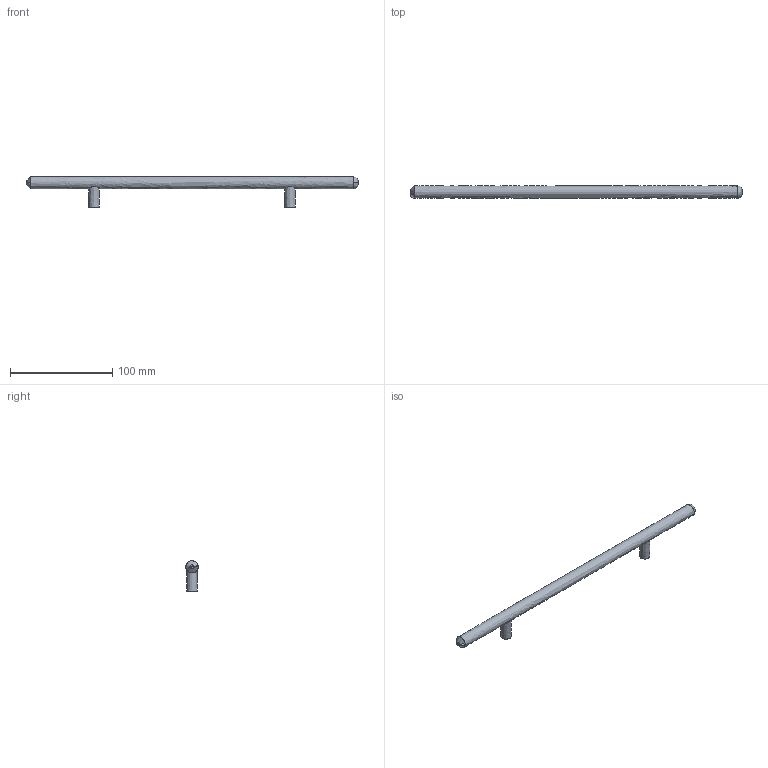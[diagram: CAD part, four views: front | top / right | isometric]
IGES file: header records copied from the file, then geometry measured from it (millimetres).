
Start section: C
Global section: file name: 8097-324.igs; native system: By Siemens PLM Incorporated; preprocessor: XPlus GENERIC/IGES 16.0.42; author: Author; organization: Title; date: 20231128.115415; units: millimetre
Bounding box: 325 x 12 x 30 mm (x, y, z)
Surface area: 14114.5 mm2 (no closed solid volume)
Topology: 0 solids, 0 shells, 13 faces, 64 edges, 62 vertices
Faces by surface type: bspline 13
